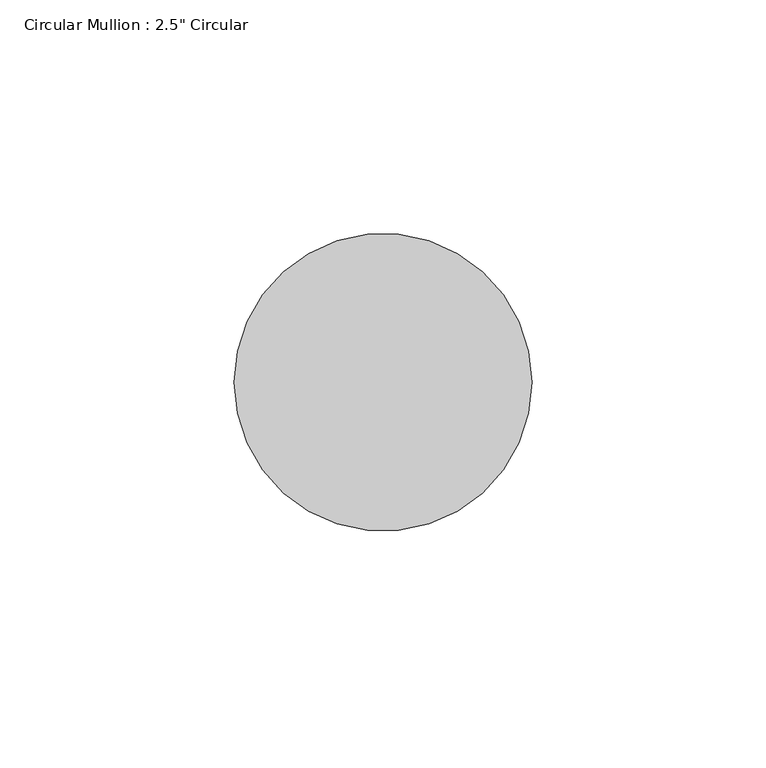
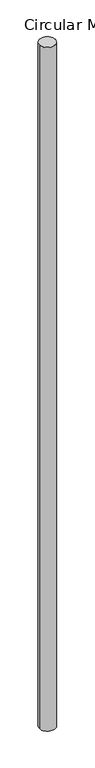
"""IFC4 building model written with IfcOpenShell, lengths in millimetres: member geometry."""

from ifc_helpers import new_model, si_unit, point, frame, origin, origin_2d, place, context, project, spatial, circle_curve, trimmed, segment, composite_curve, outline, extrude, source, transform, mapped, element, save


def member_5f5d3387(model_context):
    return source(origin(), model_context, "Body", "SweptSolid", [
        extrude(outline(composite_curve([segment(trimmed(circle_curve(origin_2d(), 31.75), [point((31.75, 0.0))], [point((-31.75, 0.0))], False, "CARTESIAN"), True, "CONTINUOUS"), segment(trimmed(circle_curve(origin_2d(), 31.75), [point((-31.75, 0.0))], [point((31.75, 0.0))], False, "CARTESIAN"), True, "CONTINUOUS")], self_intersect=False)), frame((0.0, 0.0, -2855.1265713), z_axis=(0.0, 0.0, 1.0), x_axis=(1.0, 0.0, 0.0)), (0.0, 0.0, 1.0), 2855.1265713),
    ])


if __name__ == "__main__":
    model = new_model("IFC4")
    model_context = context("Model", 3, world=origin())
    ifc_project = project(units=[si_unit("LENGTHUNIT", "METRE", prefix="MILLI")], contexts=[model_context])
    site = spatial("IfcSite", under=ifc_project)
    building = spatial("IfcBuilding", under=site)
    placement = place(None, origin())
    member_shape = member_5f5d3387(model_context)
    element("IfcMember", 1, ObjectType="Circular Mullion : 2.5\" Circular", at=placement, inside=building, context=model_context, shape_type="MappedRepresentation", body=[
        mapped(member_shape, transform((0.0, 0.0, 0.0), x_axis=(1.0, 0.0, 0.0), y_axis=(0.0, 1.0, 0.0), z_axis=(0.0, 0.0, 1.0))),
    ])
    save(model, "model.ifc")
